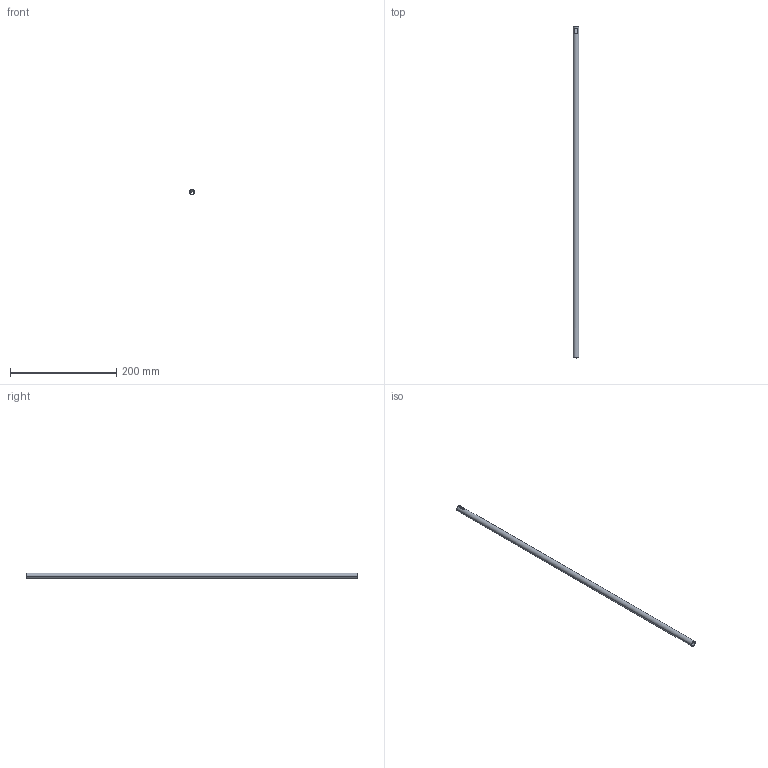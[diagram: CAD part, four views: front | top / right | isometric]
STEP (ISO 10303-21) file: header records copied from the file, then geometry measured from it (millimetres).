
FILE_DESCRIPTION (( 'STEP AP214' ), '1' );
FILE_NAME ('Relingsrohr_2S-Rundrel_P760604300_650.step', '2010-09-07T12:59:26', ( 'grass' ), ( '' ), 'SwSTEP 2.0', 'SolidWorks 2010', '' );
FILE_SCHEMA (( 'AUTOMOTIVE_DESIGN' ));
Length unit declared in the file: millimetre
Products named in the file (1): Relingsrohr_2S-Rundrel_P760604300_650
Bounding box: 11 x 626 x 11 mm (x, y, z)
Volume: 19664.1 mm3; surface area: 39436 mm2
Topology: 1 solids, 1 shells, 14 faces, 34 edges, 22 vertices
Faces by surface type: plane 10, cylinder 4
Entity records: 476 total; most frequent: CARTESIAN_POINT 77, DIRECTION 72, ORIENTED_EDGE 68, EDGE_CURVE 34, AXIS2_PLACEMENT_3D 25, LINE 22, VECTOR 22, VERTEX_POINT 22
